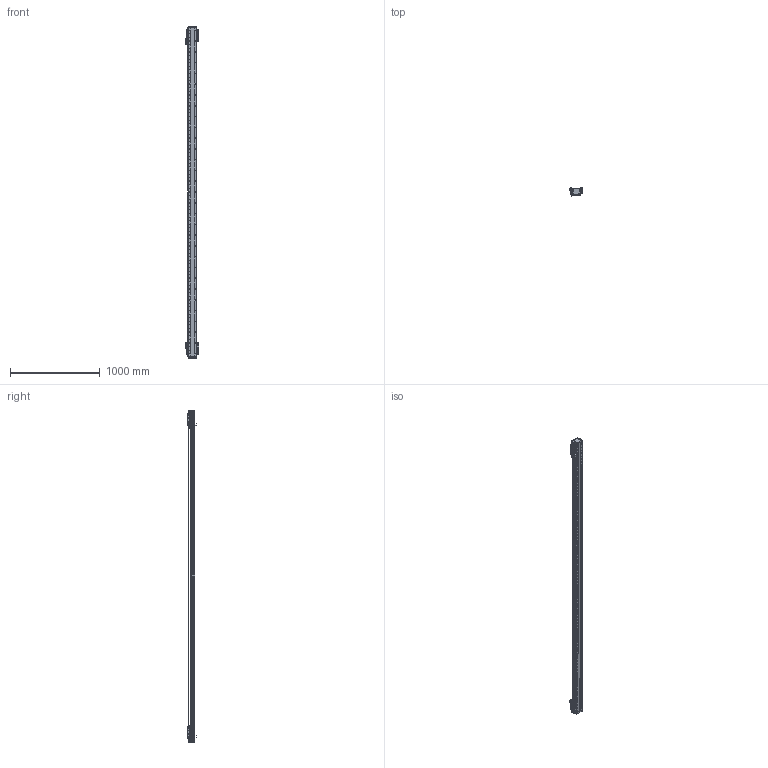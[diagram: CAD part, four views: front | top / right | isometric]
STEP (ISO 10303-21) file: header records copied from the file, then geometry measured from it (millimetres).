
FILE_DESCRIPTION (( 'STEP AP203' ), '1' );
FILE_NAME ('DA-B95-2-B15-T3320-C010-0.2 直线电机.STEP', '2023-05-06T06:48:01', ( '微软用户' ), ( '微软中国' ), 'SwSTEP 2.0', 'SolidWorks 2019', '' );
FILE_SCHEMA (( 'CONFIG_CONTROL_DESIGN' ));
Length unit declared in the file: millimetre
Products named in the file (34): 复件 DA95-B15-YB-B-00 压板B^66245-BU95-V 滚珠滑台; 复件 DKW-KGZ-ZJ-00 中间光电开关支架^DA-A95-B15-T-C010-0.2-N 直线电机; IU-BU95-L-00 菁釱_L3660; 复件 复件 18252-0001-002-00 钢带垫块^DA-A95-B15-T-C010-0.2-N 直线电机; 复件 66245-BU95-HT-V-01 滑动台板^66245-BU95-V-00 一体化滑动台板; 复件 DA95-B15 钢带盖板^DA-A95-B15-T-C010-0.2-N 直线电机; 复件 DA95-HK-GT-00 滑块钢轨^66245-BU95-V-00 一体化滑动台板; 葩璃 BKM015-W060-C1-TP-DA-0.2^DA-A95-B15-T-C010-0.2-N 眻盄萇儂; 葩璃 DA95-B15-DP-A-00 菜えA^66245-BU95-V 幗紩賑怢; 葩璃 BKMA01-W060-TRL^DA-A95-B15-T-C010-0.2-N 眻盄萇儂; 复件 纯铜油杯 6x6mm^66245-BU95-V 滚珠滑台; 复件 DKW-HXJ-JY-00 缓冲橡胶^DA-A95-B15-T-C010-0.2-N 直线电机; 复件 DA95-B15-YB-A-00 压板A^66245-BU95-V 滚珠滑台; 复件 六角薄螺母 M3^DA-A95-B15-T-C010-0.2-N 直线电机_GB_FASTENER_NUT_STNAB M3-C; PM-T45 光电开关^DA-A95-B15-T-C010-0.2-N 直线电机; 复件 DA95-MFP-01 密封片^66245-BU95-V 滚珠滑台; 66245-BU95-V-00 珨极趙賑雄怢啣; 复件 DA95-DB-00  挡板^66245-BU95-V 滚珠滑台; 葩璃 DA95-GT-T-00^IU-BU95-L 菁釱絳寢_DA95; 复件 复件 18252-0001-003-00 钢带拉块^DA-A95-B15-T-C010-0.2-N 直线电机; IU-BU95-L 菁釱絳寢; 复件 DA95-DK-00 挡块^66245-BU95-V 滚珠滑台; LMDK-2-R001-V5-L02-C1-F00，0.2M 读数头^DA-A95-B15-T-C010-0.2-N 直线电机_DMA-010-0.2; 复件 复件 18252-0001-004-00 钢带端盖^DA-A95-B15-T-C010-0.2-N 直线电机; DA-B95-2-B15-T3320-C010-0.2 眻盄萇儂; 复件 DKW-GYP-ZJ-00 中间光电感应片^DA-A95-B15-T-C010-0.2-N 直线电机; 葩璃 PM-Y45^DA-A95-B15-T-C010-0.2-N 眻盄萇儂; DA-A95-GYP-00 光电感应片^DA-A95-B15-T-C010-0.2-N 直线电机; 66245-BU95-V 幗紩賑怢; DA95-HXJ-00 缓冲橡胶^DA-A95-B15-T-C010-0.2-N 直线电机; 葩璃 DA95-B15-DP--B-00 菜えB^66245-BU95-V 幗紩賑怢; B15 XD-U-02L ｴﾅﾕ､ｳﾟ^DA-A95-B15-T-C010-0.2-N ﾖｱﾏﾟｵ扈銈XD-U-02L
Assembly tree (80 placements, depth 4):
  DA-B95-2-B15-T3320-C010-0.2 眻盄萇儂
    IU-BU95-L 菁釱絳寢
      IU-BU95-L-00 菁釱_L3660
      葩璃 DA95-GT-T-00^IU-BU95-L 菁釱絳寢_DA95  x2
    66245-BU95-V 幗紩賑怢
      66245-BU95-V-00 珨极趙賑雄怢啣
        复件 66245-BU95-HT-V-01 滑动台板^66245-BU95-V-00 一体化滑动台板
        复件 DA95-HK-GT-00 滑块钢轨^66245-BU95-V-00 一体化滑动台板  x2
      葩璃 DA95-B15-DP-A-00 菜えA^66245-BU95-V 幗紩賑怢
      复件 DA95-B15-YB-A-00 压板A^66245-BU95-V 滚珠滑台
      复件 DA95-B15-YB-B-00 压板B^66245-BU95-V 滚珠滑台
      复件 DA95-DB-00  挡板^66245-BU95-V 滚珠滑台  x4
      复件 DA95-DK-00 挡块^66245-BU95-V 滚珠滑台  x2
      复件 DA95-MFP-01 密封片^66245-BU95-V 滚珠滑台  x4
      复件 纯铜油杯 6x6mm^66245-BU95-V 滚珠滑台  x2
      葩璃 DA95-B15-DP--B-00 菜えB^66245-BU95-V 幗紩賑怢
    66245-BU95-V 幗紩賑怢
      66245-BU95-V-00 珨极趙賑雄怢啣
        复件 66245-BU95-HT-V-01 滑动台板^66245-BU95-V-00 一体化滑动台板
        复件 DA95-HK-GT-00 滑块钢轨^66245-BU95-V-00 一体化滑动台板  x2
      葩璃 DA95-B15-DP-A-00 菜えA^66245-BU95-V 幗紩賑怢
      复件 DA95-B15-YB-A-00 压板A^66245-BU95-V 滚珠滑台
      复件 DA95-B15-YB-B-00 压板B^66245-BU95-V 滚珠滑台
      复件 DA95-DB-00  挡板^66245-BU95-V 滚珠滑台  x4
      复件 DA95-DK-00 挡块^66245-BU95-V 滚珠滑台  x2
      复件 DA95-MFP-01 密封片^66245-BU95-V 滚珠滑台  x4
      复件 纯铜油杯 6x6mm^66245-BU95-V 滚珠滑台  x2
      葩璃 DA95-B15-DP--B-00 菜えB^66245-BU95-V 幗紩賑怢
    DA-A95-GYP-00 光电感应片^DA-A95-B15-T-C010-0.2-N 直线电机  x2
    LMDK-2-R001-V5-L02-C1-F00，0.2M 读数头^DA-A95-B15-T-C010-0.2-N 直线电机_DMA-010-0.2  x2
    复件 DKW-KGZ-ZJ-00 中间光电开关支架^DA-A95-B15-T-C010-0.2-N 直线电机
    葩璃 PM-Y45^DA-A95-B15-T-C010-0.2-N 眻盄萇儂
    复件 DKW-GYP-ZJ-00 中间光电感应片^DA-A95-B15-T-C010-0.2-N 直线电机
    葩璃 BKM015-W060-C1-TP-DA-0.2^DA-A95-B15-T-C010-0.2-N 眻盄萇儂  x2
    复件 DKW-HXJ-JY-00 缓冲橡胶^DA-A95-B15-T-C010-0.2-N 直线电机  x2
    PM-T45 光电开关^DA-A95-B15-T-C010-0.2-N 直线电机  x4
    B15 XD-U-02L ｴﾅﾕ､ｳﾟ^DA-A95-B15-T-C010-0.2-N ﾖｱﾏﾟｵ扈銈XD-U-02L
    复件 复件 18252-0001-003-00 钢带拉块^DA-A95-B15-T-C010-0.2-N 直线电机  x2
    复件 复件 18252-0001-002-00 钢带垫块^DA-A95-B15-T-C010-0.2-N 直线电机  x2
    复件 复件 18252-0001-004-00 钢带端盖^DA-A95-B15-T-C010-0.2-N 直线电机  x2
    复件 DA95-B15 钢带盖板^DA-A95-B15-T-C010-0.2-N 直线电机
    DA95-HXJ-00 缓冲橡胶^DA-A95-B15-T-C010-0.2-N 直线电机  x4
    葩璃 BKMA01-W060-TRL^DA-A95-B15-T-C010-0.2-N 眻盄萇儂
    复件 六角薄螺母 M3^DA-A95-B15-T-C010-0.2-N 直线电机_GB_FASTENER_NUT_STNAB M3-C  x6
Bounding box: 145.4 x 90.2 x 3696 mm (x, y, z)
Volume: 11428649.9 mm3; surface area: 3834154.5 mm2
Topology: 75 solids, 93 shells, 4704 faces, 13684 edges, 8735 vertices
Faces by surface type: cylinder 2541, plane 1631, cone 464, torus 64, sphere 4
Entity records: 126120 total; most frequent: CARTESIAN_POINT 35194, ORIENTED_EDGE 18726, DIRECTION 17636, EDGE_CURVE 9363, AXIS2_PLACEMENT_3D 6761, VERTEX_POINT 6137, LINE 4114, VECTOR 4114
